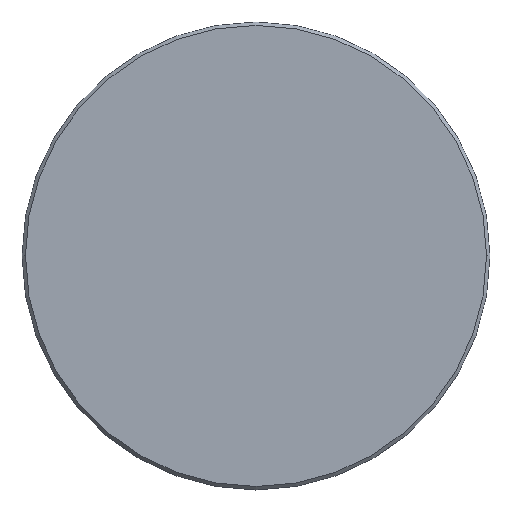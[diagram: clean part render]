
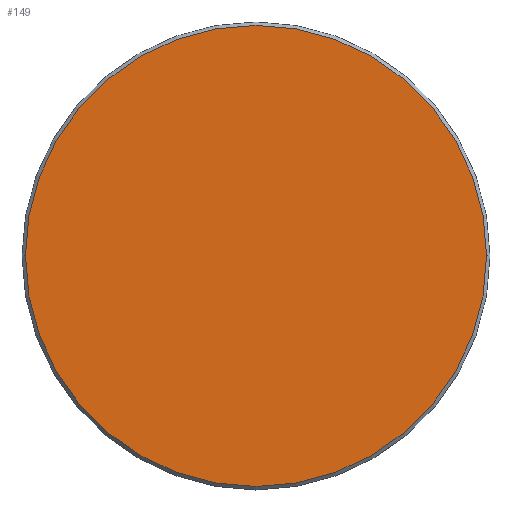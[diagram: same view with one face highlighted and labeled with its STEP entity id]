
A CAD part, top view. The second image highlights one B-rep face of the part: STEP entity #149.
In plain terms, the highlighted planar face has unit normal (0, 0, 1).
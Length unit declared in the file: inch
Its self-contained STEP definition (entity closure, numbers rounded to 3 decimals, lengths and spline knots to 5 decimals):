
#30=CARTESIAN_POINT('',(0.,0.,0.));
#31=DIRECTION('',(0.,0.,1.));
#32=DIRECTION('',(1.,0.,0.));
#33=AXIS2_PLACEMENT_3D('',#30,#31,#32);
#35=CARTESIAN_POINT('',(0.,0.,0.));
#36=DIRECTION('',(0.,0.,1.));
#37=DIRECTION('',(-1.,0.,0.));
#38=AXIS2_PLACEMENT_3D('',#35,#36,#37);
#66=CARTESIAN_POINT('',(2.094,0.,0.));
#67=CARTESIAN_POINT('',(-2.094,0.,0.));
#68=VERTEX_POINT('',#66);
#69=VERTEX_POINT('',#67);
#139=CARTESIAN_POINT('',(0.,0.,0.));
#140=DIRECTION('',(0.,0.,-1.));
#141=DIRECTION('',(-1.,0.,0.));
#142=AXIS2_PLACEMENT_3D('',#139,#140,#141);
#143=PLANE('',#142);
#145=ORIENTED_EDGE('',*,*,#144,.F.);
#146=ORIENTED_EDGE('',*,*,#129,.F.);
#147=EDGE_LOOP('',(#145,#146));
#148=FACE_OUTER_BOUND('',#147,.F.);
#149=ADVANCED_FACE('',(#148),#143,.F.);
#34=CIRCLE('',#33,2.094);
#39=CIRCLE('',#38,2.094);
#129=EDGE_CURVE('',#69,#68,#39,.T.);
#144=EDGE_CURVE('',#68,#69,#34,.T.);
